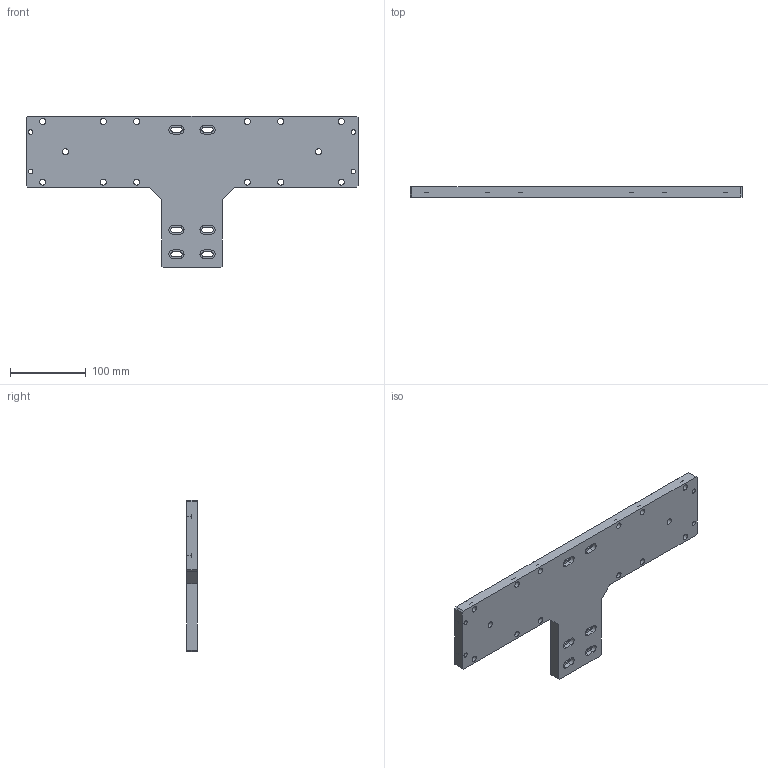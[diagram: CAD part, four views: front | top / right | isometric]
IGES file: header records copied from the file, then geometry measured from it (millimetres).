
Start section:  PTC IGES file: k80-k100l-st.igs
Global section: file name: k80-k100l-st.igs; native system: Pro/ENGINEER by Parametric Technology Corporation; preprocessor: 2008230; author: Owner; organization: Unknown; date: 20121211.154937; units: millimetre
Bounding box: 438 x 14 x 200 mm (x, y, z)
Surface area: 126804.7 mm2 (no closed solid volume)
Topology: 0 solids, 0 shells, 162 faces, 864 edges, 854 vertices
Faces by surface type: revolution 96, bspline 66
